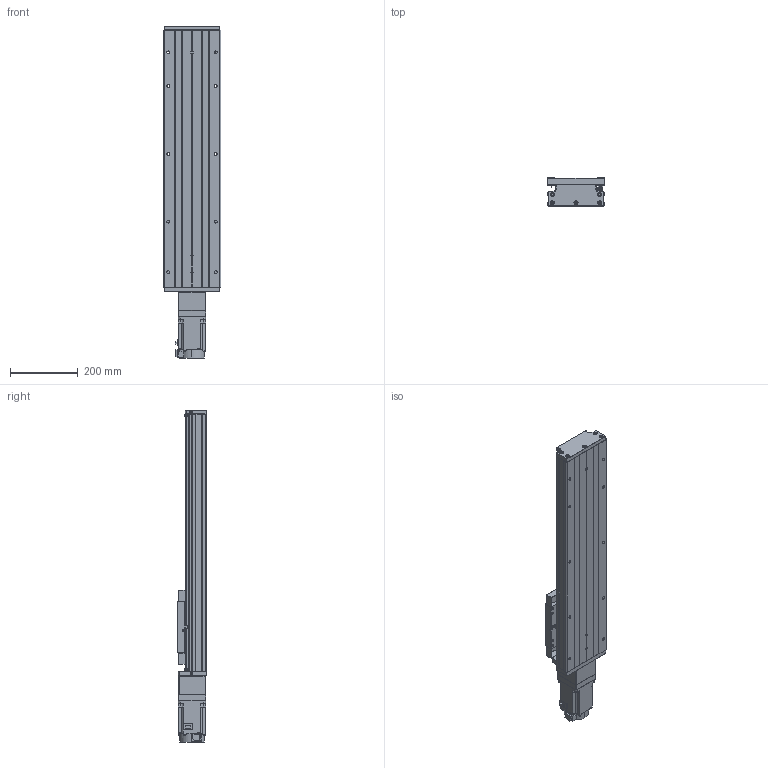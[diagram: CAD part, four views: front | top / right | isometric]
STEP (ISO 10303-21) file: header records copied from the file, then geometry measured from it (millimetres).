
FILE_DESCRIPTION (( 'STEP AP203' ), '1' );
FILE_NAME ('GTH17-500-BC-M75-C4.step', '2023-06-30T11:22:02', ( '微软用户' ), ( '微软中国' ), 'SwSTEP 2.0', 'SolidWorks 2020', '' );
FILE_SCHEMA (( 'CONFIG_CONTROL_DESIGN' ));
Length unit declared in the file: millimetre
Products named in the file (20): GTH17-001_500; CTHA60-016; GBT 70.3-M3℅8; GTH17-002_GTH17-002; GTH17-013; GBT 70.1-M3℅5; GTH17-006-2_M75; GTH17-004; GTH17-027-1; GBT77-2000 M3×3; GTH17-005; HG-KN73J-S100; GBT 70.1-M6¡Á20_M6¡Á20; GB1155-6X6; GTH17-500-BC-M75-C4; GTH17-031; CTHA60-017; GBT 70.2-M3¡Á5_M3¡Á6; EE_SX911P_R; す晦芛蹟隊 M3℅5
Assembly tree (57 placements, depth 2):
  GTH17-500-BC-M75-C4
    GTH17-001_500
    GTH17-002_GTH17-002
    GTH17-004
    GTH17-005
    GB1155-6X6  x2
    CTHA60-017  x3
    EE_SX911P_R  x3
    CTHA60-016  x2
    GBT 70.1-M3℅5  x6
    GBT77-2000 M3×3  x6
    GBT 70.1-M6¡Á20_M6¡Á20  x10
    GTH17-031
    GBT 70.2-M3¡Á5_M3¡Á6  x8
    す晦芛蹟隊 M3℅5  x6
    GBT 70.3-M3℅8  x2
    GTH17-006-2_M75
    GTH17-013
    GTH17-027-1
    HG-KN73J-S100
Bounding box: 171 x 87 x 981.2 mm (x, y, z)
Volume: 7437824.1 mm3; surface area: 997814.9 mm2
Topology: 60 solids, 60 shells, 2404 faces, 5749 edges, 3563 vertices
Faces by surface type: plane 1303, cylinder 654, cone 287, torus 120, sphere 20, bspline 20
Entity records: 44837 total; most frequent: CARTESIAN_POINT 10377, DIRECTION 6477, ORIENTED_EDGE 6414, EDGE_CURVE 3207, AXIS2_PLACEMENT_3D 2197, VECTOR 2083, LINE 2083, VERTEX_POINT 2031
